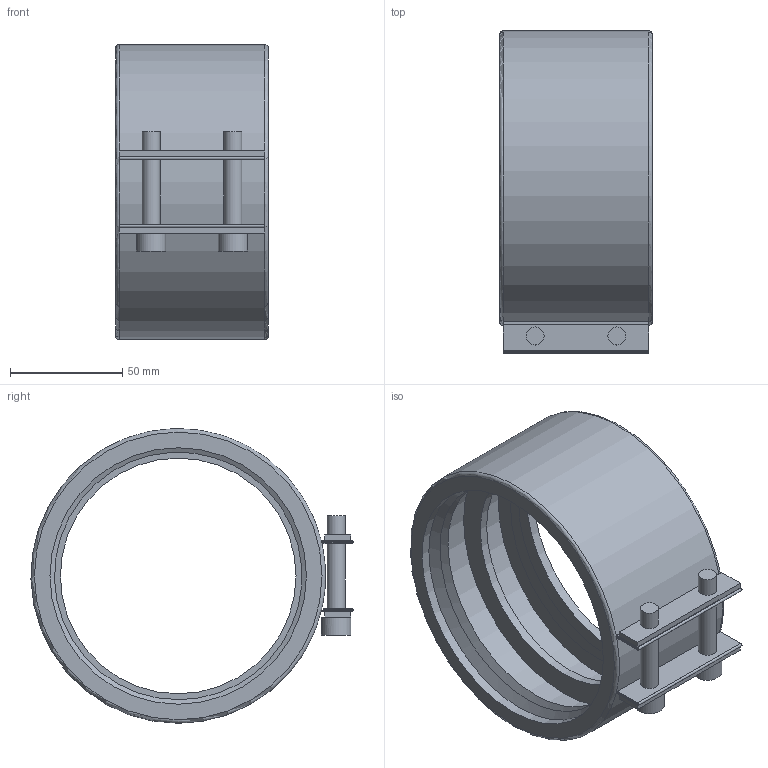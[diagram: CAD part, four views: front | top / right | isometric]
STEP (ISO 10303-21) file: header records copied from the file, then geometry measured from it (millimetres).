
FILE_DESCRIPTION( ( 'STEP AP214' ), '1' );
FILE_NAME( 'C:/Users/ilukic/Documents/ex/gebaudeentwasserung/pe/Geberit adapter clamping connector/359442.stp', '2020-03-26T18:41:19', ( '' ), ( '' ), ' ', 'PARTsolutions', ' ' );
FILE_SCHEMA( ( 'AUTOMOTIVE_DESIGN { 1 0 10303 214 1 1 1 1 }' ) );
Length unit declared in the file: millimetre
Products named in the file (1): _359442
Bounding box: 68 x 143.23 x 130.97 mm (x, y, z)
Volume: 144885.9 mm3; surface area: 105313.8 mm2
Topology: 1 solids, 1 shells, 121 faces, 309 edges, 202 vertices
Faces by surface type: plane 91, cylinder 22, cone 6, torus 2
Full cylindrical faces by diameter (mm): 8 x8, 13 x2, 104.762 x1, 110 x1, 114 x1, 125.72 x2
Entity records: 4378 total; most frequent: CARTESIAN_POINT 680, DIRECTION 544, ORIENTED_EDGE 536, EDGE_CURVE 268, AXIS2_PLACEMENT_3D 192, VERTEX_POINT 184, EDGE_LOOP 168, LINE 160
